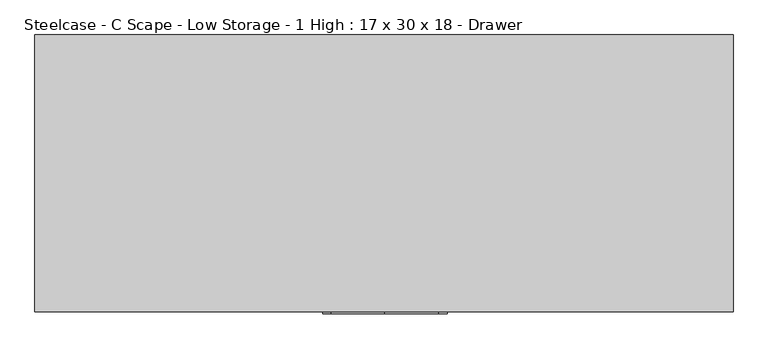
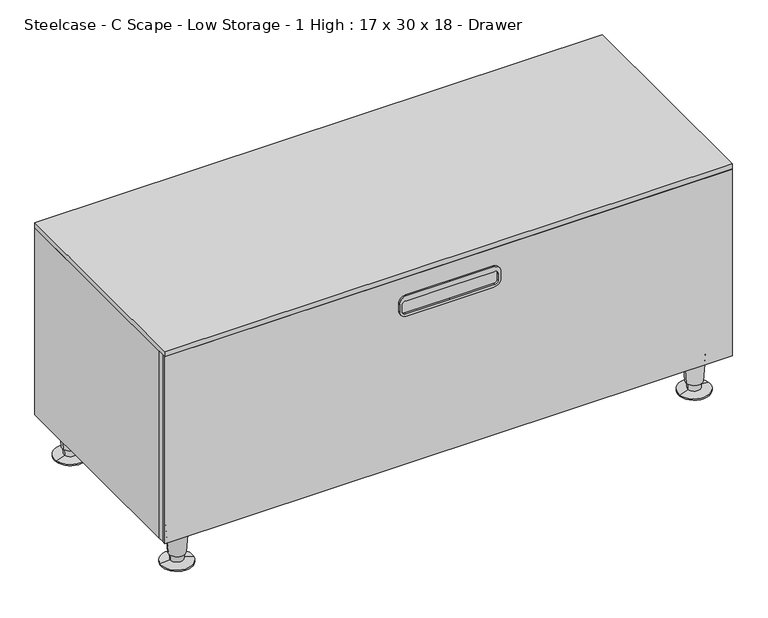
"""IFC4 building model written with IfcOpenShell, lengths in millimetres: furniture geometry, Steelcase - C Scape - Low Storage - 1 High : 17 x 30 x 18 - Drawer."""

from ifc_helpers import new_model, si_unit, point, frame, frame_2d, origin, place, context, project, spatial, polyline, circle_curve, trimmed, segment, composite_curve, outline, extrude, source, transform, mapped, element, save
from ifc_brep_helpers import plane_surface, cylinder_surface, revolved_surface, advanced_brep


def steelcase_c_scape_low_storage_1_high_17_x_30_x_18_drawer_4b9ba21a(model_context):
    return source(origin(), model_context, "Body", "SolidModel", [
        advanced_brep(
        [(999.3527179, -383.7693967, 76.2), (1037.0144568, -378.0071556, 76.2), (1018.1835874, -380.8882761, 76.2), (1003.3030659, -383.164994, 19.05), (1033.0641088, -378.6115583, 19.05), (1005.7326529, -382.7932675, 19.05), (1030.6345219, -378.9832848, 19.05), (1006.4214224, -382.6878858, 5.7545598), (1029.9457524, -379.0886664, 5.7545598), (989.0725389, -385.3422628, 2.5119506), (1047.2946359, -376.4342895, 2.5119506), (989.0725389, -385.3422628, 0.0), (1047.2946359, -376.4342895, 0.0), (1018.1835874, -380.8882761, 0.0)],
        [
            (0, 1, circle_curve(frame((1018.1835874, -380.8882761, 76.2), z_axis=(0.0, 0.0, 1.0), x_axis=(0.0, 1.0, 0.0)), 19.05)),
            (1, 2),
            (2, 0),
            (1, 0, circle_curve(frame((1018.1835874, -380.8882761, 76.2), z_axis=(0.0, 0.0, 1.0), x_axis=(0.0, 1.0, 0.0)), 19.05)),
            (3, 4, circle_curve(frame((1018.1835874, -380.8882761, 19.05), z_axis=(0.0, 0.0, 1.0), x_axis=(0.0, 1.0, 0.0)), 15.0536827)),
            (4, 1),
            (0, 3),
            (4, 3, circle_curve(frame((1018.1835874, -380.8882761, 19.05), z_axis=(0.0, 0.0, 1.0), x_axis=(0.0, 1.0, 0.0)), 15.0536827)),
            (5, 6, circle_curve(frame((1018.1835874, -380.8882761, 19.05), z_axis=(0.0, 0.0, 1.0), x_axis=(0.0, 1.0, 0.0)), 12.5958232)),
            (6, 4),
            (3, 5),
            (6, 5, circle_curve(frame((1018.1835874, -380.8882761, 19.05), z_axis=(0.0, 0.0, 1.0), x_axis=(0.0, 1.0, 0.0)), 12.5958232)),
            (7, 8, circle_curve(frame((1018.1835874, -380.8882761, 5.7545598), z_axis=(0.0, 0.0, 1.0), x_axis=(0.0, 1.0, 0.0)), 11.8990387)),
            (8, 6),
            (5, 7),
            (8, 7, circle_curve(frame((1018.1835874, -380.8882761, 5.7545598), z_axis=(0.0, 0.0, 1.0), x_axis=(0.0, 1.0, 0.0)), 11.8990387)),
            (9, 10, circle_curve(frame((1018.1835874, -380.8882761, 2.5119506), z_axis=(0.0, 0.0, 1.0), x_axis=(0.0, 1.0, 0.0)), 29.4498071)),
            (10, 8),
            (7, 9),
            (10, 9, circle_curve(frame((1018.1835874, -380.8882761, 2.5119506), z_axis=(0.0, 0.0, 1.0), x_axis=(0.0, 1.0, 0.0)), 29.4498071)),
            (11, 12, circle_curve(frame((1018.1835874, -380.8882761, 0.0), z_axis=(0.0, 0.0, 1.0), x_axis=(0.0, 1.0, 0.0)), 29.4498071)),
            (12, 10),
            (9, 11),
            (12, 11, circle_curve(frame((1018.1835874, -380.8882761, 0.0), z_axis=(0.0, 0.0, 1.0), x_axis=(0.0, 1.0, 0.0)), 29.4498071)),
            (13, 12),
            (11, 13),
        ],
        [
            plane_surface(frame((1018.1835874, -380.8882761, 76.2), z_axis=(0.0, 0.0, 1.0), x_axis=(0.0, 1.0, 0.0))),
            revolved_surface(polyline([(1018.1835874, -361.8382761, 76.2), (1018.1835874, -365.8345934, 19.05)]), (1018.1835874, -380.8882761, 25.4), (0.0, 0.0, -1.0)),
            plane_surface(frame((1018.1835874, -380.8882761, 19.05), z_axis=(0.0, 0.0, -1.0), x_axis=(0.0, 1.0, 0.0))),
            revolved_surface(polyline([(1018.1835874, -368.292453, 19.05), (1018.1835874, -368.9892375, 5.7545598)]), (1018.1835874, -380.8882761, 25.4), (0.0, 0.0, -1.0)),
            revolved_surface(polyline([(1018.1835874, -368.9892375, 5.7545598), (1018.1835874, -351.438469, 2.5119506)]), (1018.1835874, -380.8882761, 25.4), (0.0, 0.0, -1.0)),
            cylinder_surface(frame((1018.1835874, -380.8882761, 25.4), z_axis=(0.0, 0.0, -1.0), x_axis=(0.0, 1.0, 0.0)), 29.4498071),
            plane_surface(frame((1018.1835874, -380.8882761, 0.0), z_axis=(0.0, 0.0, -1.0), x_axis=(0.0, 1.0, 0.0))),
        ],
        [
            (0, [[1, 2, 3]]),
            (0, [[4, -3, -2]]),
            (1, [[5, 6, -1, 7]]),
            (1, [[8, -7, -4, -6]]),
            (2, [[9, 10, -5, 11]]),
            (2, [[12, -11, -8, -10]]),
            (3, [[13, 14, -9, 15]]),
            (3, [[16, -15, -12, -14]]),
            (4, [[17, 18, -13, 19]]),
            (4, [[20, -19, -16, -18]]),
            (5, [[21, 22, -17, 23]]),
            (5, [[24, -23, -20, -22]]),
            (6, [[25, -21, 26]]),
            (6, [[-26, -24, -25]]),
        ],
    ),
        advanced_brep(
        [(75.8224611, -385.3422628, 0.0), (17.6003641, -376.4342895, 0.0), (46.7114126, -380.8882761, 0.0), (75.8224611, -385.3422628, 2.5119506), (17.6003641, -376.4342895, 2.5119506), (58.4735776, -382.6878858, 5.7545598), (34.9492476, -379.0886664, 5.7545598), (59.1623471, -382.7932675, 19.05), (34.2604781, -378.9832848, 19.05), (61.5919341, -383.164994, 19.05), (31.8308912, -378.6115583, 19.05), (65.5422821, -383.7693967, 76.2), (27.8805432, -378.0071556, 76.2), (46.7114126, -380.8882761, 76.2)],
        [
            (0, 1, circle_curve(frame((46.7114126, -380.8882761, 0.0), z_axis=(0.0, 0.0, -1.0), x_axis=(0.0, 1.0, 0.0)), 29.4498071)),
            (1, 2),
            (2, 0),
            (1, 0, circle_curve(frame((46.7114126, -380.8882761, 0.0), z_axis=(0.0, 0.0, -1.0), x_axis=(0.0, 1.0, 0.0)), 29.4498071)),
            (3, 4, circle_curve(frame((46.7114126, -380.8882761, 2.5119506), z_axis=(0.0, 0.0, -1.0), x_axis=(0.0, 1.0, 0.0)), 29.4498071)),
            (4, 1),
            (0, 3),
            (4, 3, circle_curve(frame((46.7114126, -380.8882761, 2.5119506), z_axis=(0.0, 0.0, -1.0), x_axis=(0.0, 1.0, 0.0)), 29.4498071)),
            (5, 6, circle_curve(frame((46.7114126, -380.8882761, 5.7545598), z_axis=(0.0, 0.0, -1.0), x_axis=(0.0, 1.0, 0.0)), 11.8990387)),
            (6, 4),
            (3, 5),
            (6, 5, circle_curve(frame((46.7114126, -380.8882761, 5.7545598), z_axis=(0.0, 0.0, -1.0), x_axis=(0.0, 1.0, 0.0)), 11.8990387)),
            (7, 8, circle_curve(frame((46.7114126, -380.8882761, 19.05), z_axis=(0.0, 0.0, -1.0), x_axis=(0.0, 1.0, 0.0)), 12.5958232)),
            (8, 6),
            (5, 7),
            (8, 7, circle_curve(frame((46.7114126, -380.8882761, 19.05), z_axis=(0.0, 0.0, -1.0), x_axis=(0.0, 1.0, 0.0)), 12.5958232)),
            (9, 10, circle_curve(frame((46.7114126, -380.8882761, 19.05), z_axis=(0.0, 0.0, -1.0), x_axis=(0.0, 1.0, 0.0)), 15.0536827)),
            (10, 8),
            (7, 9),
            (10, 9, circle_curve(frame((46.7114126, -380.8882761, 19.05), z_axis=(0.0, 0.0, -1.0), x_axis=(0.0, 1.0, 0.0)), 15.0536827)),
            (11, 12, circle_curve(frame((46.7114126, -380.8882761, 76.2), z_axis=(0.0, 0.0, -1.0), x_axis=(0.0, 1.0, 0.0)), 19.05)),
            (12, 10),
            (9, 11),
            (12, 11, circle_curve(frame((46.7114126, -380.8882761, 76.2), z_axis=(0.0, 0.0, -1.0), x_axis=(0.0, 1.0, 0.0)), 19.05)),
            (13, 12),
            (11, 13),
        ],
        [
            plane_surface(frame((46.7114126, -380.8882761, 0.0), z_axis=(0.0, 0.0, -1.0), x_axis=(0.0, 1.0, 0.0))),
            cylinder_surface(frame((46.7114126, -380.8882761, 25.4), z_axis=(0.0, 0.0, 1.0), x_axis=(0.0, 1.0, 0.0)), 29.4498071),
            revolved_surface(polyline([(46.7114126, -351.438469, 2.5119506), (46.7114126, -368.9892375, 5.7545598)]), (46.7114126, -380.8882761, 25.4), (0.0, 0.0, 1.0)),
            revolved_surface(polyline([(46.7114126, -368.9892375, 5.7545598), (46.7114126, -368.292453, 19.05)]), (46.7114126, -380.8882761, 25.4), (0.0, 0.0, 1.0)),
            plane_surface(frame((46.7114126, -380.8882761, 19.05), z_axis=(0.0, 0.0, -1.0), x_axis=(0.0, 1.0, 0.0))),
            revolved_surface(polyline([(46.7114126, -365.8345934, 19.05), (46.7114126, -361.8382761, 76.2)]), (46.7114126, -380.8882761, 25.4), (0.0, 0.0, 1.0)),
            plane_surface(frame((46.7114126, -380.8882761, 76.2), z_axis=(0.0, 0.0, 1.0), x_axis=(0.0, 1.0, 0.0))),
        ],
        [
            (0, [[1, 2, 3]]),
            (0, [[4, -3, -2]]),
            (1, [[5, 6, -1, 7]]),
            (1, [[8, -7, -4, -6]]),
            (2, [[9, 10, -5, 11]]),
            (2, [[12, -11, -8, -10]]),
            (3, [[13, 14, -9, 15]]),
            (3, [[16, -15, -12, -14]]),
            (4, [[17, 18, -13, 19]]),
            (4, [[20, -19, -16, -18]]),
            (5, [[21, 22, -17, 23]]),
            (5, [[24, -23, -20, -22]]),
            (6, [[25, -21, 26]]),
            (6, [[-26, -24, -25]]),
        ],
    ),
        extrude(outline(polyline([(76.2, 0.0), (76.2, 1065.53), (447.0400097, 1065.53), (447.0400097, 0.0), (76.2, 0.0)]), holes=[polyline([(436.2449927, 13.4770391), (436.2449927, 1052.1950775), (89.5349964, 1052.1950775), (89.5349964, 13.4770391), (436.2449927, 13.4770391)])]), frame((0.0, -415.2912402, 0.0), z_axis=(0.0, 1.0, 0.0), x_axis=(0.0, 0.0, 1.0)), (0.0, 0.0, 1.0), 11.4256592),
        extrude(outline(composite_curve([segment(trimmed(circle_curve(frame_2d((399.2562379, 451.8022442)), 12.7), [point((411.9562379, 451.8022442))], [point((399.2562379, 439.1022442))], False, "CARTESIAN"), True, "CONTINUOUS"), segment(polyline([(399.2562379, 439.1022442), (384.651267, 439.1022442)]), True, "CONTINUOUS"), segment(trimmed(circle_curve(frame_2d((384.651267, 451.8022442)), 12.7), [point((384.651267, 439.1022442))], [point((371.951267, 451.8022442))], False, "CARTESIAN"), True, "CONTINUOUS"), segment(polyline([(371.951267, 451.8022442), (371.951267, 534.035), (371.951267, 616.2677558)]), True, "CONTINUOUS"), segment(trimmed(circle_curve(frame_2d((384.651267, 616.2677558)), 12.7), [point((371.951267, 616.2677558))], [point((384.651267, 628.9677558))], False, "CARTESIAN"), True, "CONTINUOUS"), segment(polyline([(384.651267, 628.9677558), (399.2562379, 628.9677558)]), True, "CONTINUOUS"), segment(trimmed(circle_curve(frame_2d((399.2562379, 616.2677558)), 12.7), [point((399.2562379, 628.9677558))], [point((411.9562379, 616.2677558))], False, "CARTESIAN"), True, "CONTINUOUS"), segment(polyline([(411.9562379, 616.2677558), (411.9562379, 534.035), (411.9562379, 451.8022442)]), True, "CONTINUOUS")], self_intersect=False), holes=[composite_curve([segment(trimmed(circle_curve(frame_2d((395.8272563, 450.2798565)), 6.35), [point((395.8272563, 443.9298565))], [point((402.1772563, 450.2798565))], True, "CARTESIAN"), True, "CONTINUOUS"), segment(polyline([(402.1772563, 450.2798565), (402.1772563, 534.035), (402.1772563, 617.7901435)]), True, "CONTINUOUS"), segment(trimmed(circle_curve(frame_2d((395.8272563, 617.7901435)), 6.35), [point((402.1772563, 617.7901435))], [point((395.8272563, 624.1401435))], True, "CARTESIAN"), True, "CONTINUOUS"), segment(polyline([(395.8272563, 624.1401435), (383.1272442, 624.1401435)]), True, "CONTINUOUS"), segment(trimmed(circle_curve(frame_2d((383.1272442, 617.7901435)), 6.35), [point((383.1272442, 624.1401435))], [point((376.7772442, 617.7901435))], True, "CARTESIAN"), True, "CONTINUOUS"), segment(polyline([(376.7772442, 617.7901435), (376.7772442, 534.035), (376.7772442, 450.2798565)]), True, "CONTINUOUS"), segment(trimmed(circle_curve(frame_2d((383.1272442, 450.2798565)), 6.35), [point((376.7772442, 450.2798565))], [point((383.1272442, 443.9298565))], True, "CARTESIAN"), True, "CONTINUOUS"), segment(polyline([(383.1272442, 443.9298565), (395.8272563, 443.9298565)]), True, "CONTINUOUS")], self_intersect=False)]), frame((0.0, -425.6649124, 0.0), z_axis=(0.0, 1.0, 0.0), x_axis=(0.0, 0.0, 1.0)), (0.0, 0.0, 1.0), 3.1360519),
        advanced_brep(
        [(1038.2598695, -31.5218435, 76.2), (1000.5981305, -37.2840847, 76.2), (1019.429, -34.4029641, 76.2), (1034.3095214, -32.1262463, 19.05), (1004.5484786, -36.6796819, 19.05), (1031.8799345, -32.4979728, 19.05), (1006.9780655, -36.3079555, 19.05), (1031.191165, -32.6033544, 5.7545598), (1007.666835, -36.2025738, 5.7545598), (1048.5400485, -29.9489775, 2.5119506), (990.3179515, -38.8569507, 2.5119506), (1048.5400485, -29.9489775, 0.0), (990.3179515, -38.8569507, 0.0), (1019.429, -34.4029641, 0.0)],
        [
            (0, 1, circle_curve(frame((1019.429, -34.4029641, 76.2), z_axis=(0.0, 0.0, 1.0), x_axis=(0.0, -1.0, 0.0)), 19.05)),
            (1, 2),
            (2, 0),
            (1, 0, circle_curve(frame((1019.429, -34.4029641, 76.2), z_axis=(0.0, 0.0, 1.0), x_axis=(0.0, -1.0, 0.0)), 19.05)),
            (3, 4, circle_curve(frame((1019.429, -34.4029641, 19.05), z_axis=(0.0, 0.0, 1.0), x_axis=(0.0, -1.0, 0.0)), 15.0536827)),
            (4, 1),
            (0, 3),
            (4, 3, circle_curve(frame((1019.429, -34.4029641, 19.05), z_axis=(0.0, 0.0, 1.0), x_axis=(0.0, -1.0, 0.0)), 15.0536827)),
            (5, 6, circle_curve(frame((1019.429, -34.4029641, 19.05), z_axis=(0.0, 0.0, 1.0), x_axis=(0.0, -1.0, 0.0)), 12.5958232)),
            (6, 4),
            (3, 5),
            (6, 5, circle_curve(frame((1019.429, -34.4029641, 19.05), z_axis=(0.0, 0.0, 1.0), x_axis=(0.0, -1.0, 0.0)), 12.5958232)),
            (7, 8, circle_curve(frame((1019.429, -34.4029641, 5.7545598), z_axis=(0.0, 0.0, 1.0), x_axis=(0.0, -1.0, 0.0)), 11.8990387)),
            (8, 6),
            (5, 7),
            (8, 7, circle_curve(frame((1019.429, -34.4029641, 5.7545598), z_axis=(0.0, 0.0, 1.0), x_axis=(0.0, -1.0, 0.0)), 11.8990387)),
            (9, 10, circle_curve(frame((1019.429, -34.4029641, 2.5119506), z_axis=(0.0, 0.0, 1.0), x_axis=(0.0, -1.0, 0.0)), 29.4498071)),
            (10, 8),
            (7, 9),
            (10, 9, circle_curve(frame((1019.429, -34.4029641, 2.5119506), z_axis=(0.0, 0.0, 1.0), x_axis=(0.0, -1.0, 0.0)), 29.4498071)),
            (11, 12, circle_curve(frame((1019.429, -34.4029641, 0.0), z_axis=(0.0, 0.0, 1.0), x_axis=(0.0, -1.0, 0.0)), 29.4498071)),
            (12, 10),
            (9, 11),
            (12, 11, circle_curve(frame((1019.429, -34.4029641, 0.0), z_axis=(0.0, 0.0, 1.0), x_axis=(0.0, -1.0, 0.0)), 29.4498071)),
            (13, 12),
            (11, 13),
        ],
        [
            plane_surface(frame((1019.429, -34.4029641, 76.2), z_axis=(0.0, 0.0, 1.0), x_axis=(0.0, -1.0, 0.0))),
            revolved_surface(polyline([(1019.429, -53.4529641, 76.2), (1019.429, -49.4566468, 19.05)]), (1019.429, -34.4029641, 25.4), (0.0, 0.0, -1.0)),
            plane_surface(frame((1019.429, -34.4029641, 19.05), z_axis=(0.0, 0.0, -1.0), x_axis=(0.0, -1.0, 0.0))),
            revolved_surface(polyline([(1019.429, -46.9987873, 19.05), (1019.429, -46.3020028, 5.7545598)]), (1019.429, -34.4029641, 25.4), (0.0, 0.0, -1.0)),
            revolved_surface(polyline([(1019.429, -46.3020028, 5.7545598), (1019.429, -63.8527712, 2.5119506)]), (1019.429, -34.4029641, 25.4), (0.0, 0.0, -1.0)),
            cylinder_surface(frame((1019.429, -34.4029641, 25.4), z_axis=(0.0, 0.0, -1.0), x_axis=(0.0, -1.0, 0.0)), 29.4498071),
            plane_surface(frame((1019.429, -34.4029641, 0.0), z_axis=(0.0, 0.0, -1.0), x_axis=(0.0, -1.0, 0.0))),
        ],
        [
            (0, [[1, 2, 3]]),
            (0, [[4, -3, -2]]),
            (1, [[5, 6, -1, 7]]),
            (1, [[8, -7, -4, -6]]),
            (2, [[9, 10, -5, 11]]),
            (2, [[12, -11, -8, -10]]),
            (3, [[13, 14, -9, 15]]),
            (3, [[16, -15, -12, -14]]),
            (4, [[17, 18, -13, 19]]),
            (4, [[20, -19, -16, -18]]),
            (5, [[21, 22, -17, 23]]),
            (5, [[24, -23, -20, -22]]),
            (6, [[25, -21, 26]]),
            (6, [[-26, -24, -25]]),
        ],
    ),
        advanced_brep(
        [(65.5422821, -31.5218435, 76.2), (27.8805432, -37.2840847, 76.2), (46.7114126, -34.4029641, 76.2), (61.5919341, -32.1262463, 19.05), (31.8308912, -36.6796819, 19.05), (59.1623471, -32.4979728, 19.05), (34.2604781, -36.3079555, 19.05), (58.4735776, -32.6033544, 5.7545598), (34.9492476, -36.2025738, 5.7545598), (75.8224611, -29.9489775, 2.5119506), (17.6003641, -38.8569507, 2.5119506), (75.8224611, -29.9489775, 0.0), (17.6003641, -38.8569507, 0.0), (46.7114126, -34.4029641, 0.0)],
        [
            (0, 1, circle_curve(frame((46.7114126, -34.4029641, 76.2), z_axis=(0.0, 0.0, 1.0), x_axis=(0.0, -1.0, 0.0)), 19.05)),
            (1, 2),
            (2, 0),
            (1, 0, circle_curve(frame((46.7114126, -34.4029641, 76.2), z_axis=(0.0, 0.0, 1.0), x_axis=(0.0, -1.0, 0.0)), 19.05)),
            (3, 4, circle_curve(frame((46.7114126, -34.4029641, 19.05), z_axis=(0.0, 0.0, 1.0), x_axis=(0.0, -1.0, 0.0)), 15.0536827)),
            (4, 1),
            (0, 3),
            (4, 3, circle_curve(frame((46.7114126, -34.4029641, 19.05), z_axis=(0.0, 0.0, 1.0), x_axis=(0.0, -1.0, 0.0)), 15.0536827)),
            (5, 6, circle_curve(frame((46.7114126, -34.4029641, 19.05), z_axis=(0.0, 0.0, 1.0), x_axis=(0.0, -1.0, 0.0)), 12.5958232)),
            (6, 4),
            (3, 5),
            (6, 5, circle_curve(frame((46.7114126, -34.4029641, 19.05), z_axis=(0.0, 0.0, 1.0), x_axis=(0.0, -1.0, 0.0)), 12.5958232)),
            (7, 8, circle_curve(frame((46.7114126, -34.4029641, 5.7545598), z_axis=(0.0, 0.0, 1.0), x_axis=(0.0, -1.0, 0.0)), 11.8990387)),
            (8, 6),
            (5, 7),
            (8, 7, circle_curve(frame((46.7114126, -34.4029641, 5.7545598), z_axis=(0.0, 0.0, 1.0), x_axis=(0.0, -1.0, 0.0)), 11.8990387)),
            (9, 10, circle_curve(frame((46.7114126, -34.4029641, 2.5119506), z_axis=(0.0, 0.0, 1.0), x_axis=(0.0, -1.0, 0.0)), 29.4498071)),
            (10, 8),
            (7, 9),
            (10, 9, circle_curve(frame((46.7114126, -34.4029641, 2.5119506), z_axis=(0.0, 0.0, 1.0), x_axis=(0.0, -1.0, 0.0)), 29.4498071)),
            (11, 12, circle_curve(frame((46.7114126, -34.4029641, 0.0), z_axis=(0.0, 0.0, 1.0), x_axis=(0.0, -1.0, 0.0)), 29.4498071)),
            (12, 10),
            (9, 11),
            (12, 11, circle_curve(frame((46.7114126, -34.4029641, 0.0), z_axis=(0.0, 0.0, 1.0), x_axis=(0.0, -1.0, 0.0)), 29.4498071)),
            (13, 12),
            (11, 13),
        ],
        [
            plane_surface(frame((46.7114126, -34.4029641, 76.2), z_axis=(0.0, 0.0, 1.0), x_axis=(0.0, -1.0, 0.0))),
            revolved_surface(polyline([(46.7114126, -53.4529641, 76.2), (46.7114126, -49.4566468, 19.05)]), (46.7114126, -34.4029641, 25.4), (0.0, 0.0, -1.0)),
            plane_surface(frame((46.7114126, -34.4029641, 19.05), z_axis=(0.0, 0.0, -1.0), x_axis=(0.0, -1.0, 0.0))),
            revolved_surface(polyline([(46.7114126, -46.9987873, 19.05), (46.7114126, -46.3020028, 5.7545598)]), (46.7114126, -34.4029641, 25.4), (0.0, 0.0, -1.0)),
            revolved_surface(polyline([(46.7114126, -46.3020028, 5.7545598), (46.7114126, -63.8527712, 2.5119506)]), (46.7114126, -34.4029641, 25.4), (0.0, 0.0, -1.0)),
            cylinder_surface(frame((46.7114126, -34.4029641, 25.4), z_axis=(0.0, 0.0, -1.0), x_axis=(0.0, -1.0, 0.0)), 29.4498071),
            plane_surface(frame((46.7114126, -34.4029641, 0.0), z_axis=(0.0, 0.0, -1.0), x_axis=(0.0, -1.0, 0.0))),
        ],
        [
            (0, [[1, 2, 3]]),
            (0, [[4, -3, -2]]),
            (1, [[5, 6, -1, 7]]),
            (1, [[8, -7, -4, -6]]),
            (2, [[9, 10, -5, 11]]),
            (2, [[12, -11, -8, -10]]),
            (3, [[13, 14, -9, 15]]),
            (3, [[16, -15, -12, -14]]),
            (4, [[17, 18, -13, 19]]),
            (4, [[20, -19, -16, -18]]),
            (5, [[21, 22, -17, 23]]),
            (5, [[24, -23, -20, -22]]),
            (6, [[25, -21, 26]]),
            (6, [[-26, -24, -25]]),
        ],
    ),
        extrude(outline(polyline([(1065.53, -422.5288605), (0.0, -422.5288605), (0.0, -415.2912402), (1065.53, -415.2912402), (1065.53, -422.5288605)])), frame((0.0, 0.0, 76.2), z_axis=(0.0, 0.0, 1.0), x_axis=(1.0, 0.0, 0.0)), (0.0, 0.0, 1.0), 370.8400097),
        extrude(outline(polyline([(1052.1950775, -9.525), (1052.1950775, -403.8655811), (13.4770391, -403.8655811), (13.4770391, -9.525), (1052.1950775, -9.525)])), frame((0.0, 0.0, 76.2), z_axis=(0.0, 0.0, 1.0), x_axis=(1.0, 0.0, 0.0)), (0.0, 0.0, 1.0), 13.3349964),
        extrude(outline(polyline([(1065.53, 0.0), (1065.53, -422.5288605), (0.0, -422.5288605), (0.0, 0.0), (1065.53, 0.0)])), frame((0.0, 0.0, 447.0400097), z_axis=(0.0, 0.0, 1.0), x_axis=(1.0, 0.0, 0.0)), (0.0, 0.0, 1.0), 10.1599903),
        extrude(outline(polyline([(1065.53, 0.0), (1065.53, -403.8655811), (1043.5617285, -403.8655811), (1043.5617285, -9.525), (21.3382324, -9.525), (21.3382324, -403.8655811), (0.0, -403.8655811), (0.0, 0.0), (1065.53, 0.0)])), frame((0.0, 0.0, 76.2), z_axis=(0.0, 0.0, 1.0), x_axis=(1.0, 0.0, 0.0)), (0.0, 0.0, 1.0), 370.8400097),
    ])


if __name__ == "__main__":
    model = new_model("IFC4")
    model_context = context("Model", 3, world=origin())
    ifc_project = project(units=[si_unit("LENGTHUNIT", "METRE", prefix="MILLI")], contexts=[model_context])
    site = spatial("IfcSite", under=ifc_project)
    building = spatial("IfcBuilding", under=site)
    placement = place(None, origin())
    steelcase_c_scape_low_storage_1_high_17_x_30_x_18_drawer_shape = steelcase_c_scape_low_storage_1_high_17_x_30_x_18_drawer_4b9ba21a(model_context)
    element("IfcFurniture", 1, ObjectType="Steelcase - C Scape - Low Storage - 1 High : 17 x 30 x 18 - Drawer", at=placement, inside=building, context=model_context, shape_type="MappedRepresentation", body=[
        mapped(steelcase_c_scape_low_storage_1_high_17_x_30_x_18_drawer_shape, transform((0.0, 0.0, 0.0), x_axis=(1.0, 0.0, 0.0), y_axis=(0.0, 1.0, 0.0), z_axis=(0.0, 0.0, 1.0))),
    ])
    save(model, "model.ifc")
